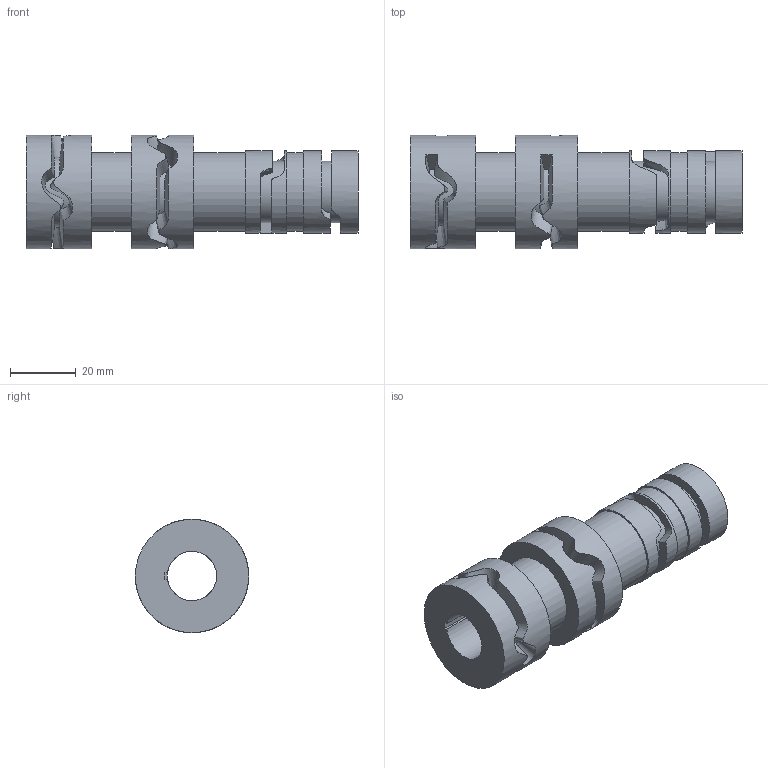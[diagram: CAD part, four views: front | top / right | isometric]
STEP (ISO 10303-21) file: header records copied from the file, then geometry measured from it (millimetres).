
FILE_DESCRIPTION(('Open CASCADE Model'),'2;1');
FILE_NAME('shift_drum_R12_U_B3_track','2026-09-28T18:16:15',('Author'),( 'Open CASCADE'),'Open CASCADE STEP processor 7.9','build123d', 'Unknown');
FILE_SCHEMA(('AUTOMOTIVE_DESIGN { 1 0 10303 214 1 1 1 1 }'));
Products named in the file (1): shift_drum_R12_U_B3_track
Bounding box: 101 x 34.5 x 34.5 mm (x, y, z)
Volume: 41403.3 mm3; surface area: 18943.8 mm2
Topology: 1 solids, 1 shells, 45 faces, 113 edges, 76 vertices
Faces by surface type: plane 25, bspline 12, cylinder 8
Full cylindrical faces by diameter (mm): 24 x3, 25 x2, 34.5 x2
Entity records: 295880 total; most frequent: CARTESIAN_POINT 293769, DIRECTION 314, ORIENTED_EDGE 226, PCURVE 226, DEFINITIONAL_REPRESENTATION 226, LINE 178, VECTOR 178, B_SPLINE_CURVE_WITH_KNOTS 116
